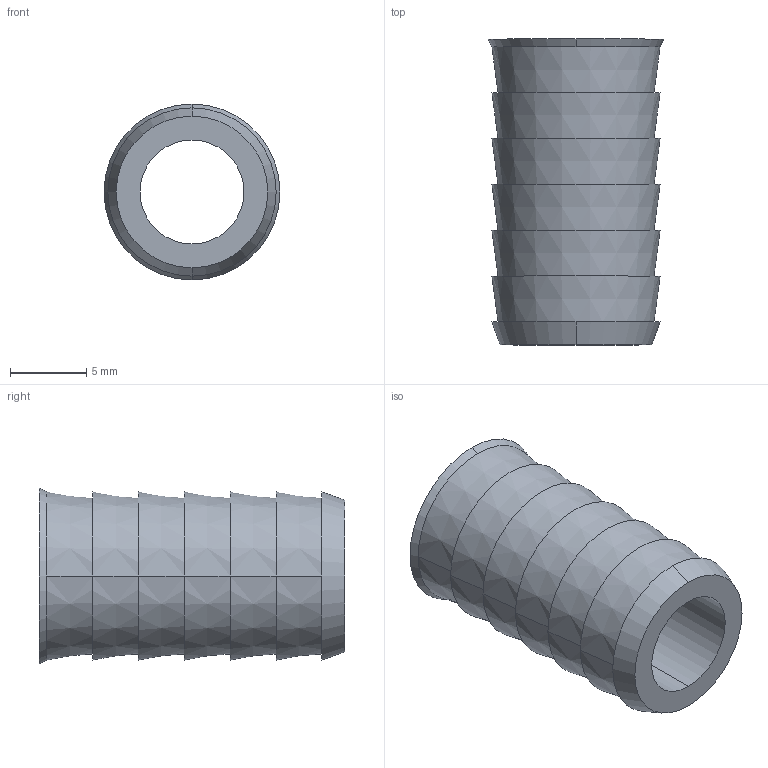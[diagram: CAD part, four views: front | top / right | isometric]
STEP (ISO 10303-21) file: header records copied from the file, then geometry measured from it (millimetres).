
FILE_DESCRIPTION (( 'STEP AP203' ), '1' );
FILE_NAME ('115.302.001.STEP', '2018-11-13T13:50:23', ( 'Localadmin' ), ( 'Microsoft' ), 'SwSTEP 2.0', 'SolidWorks 2018', '' );
FILE_SCHEMA (( 'CONFIG_CONTROL_DESIGN' ));
Length unit declared in the file: millimetre
Products named in the file (1): 115.302.001
Bounding box: 11.5 x 20 x 11.5 mm (x, y, z)
Volume: 1038.6 mm3; surface area: 1286.5 mm2
Topology: 1 solids, 1 shells, 28 faces, 58 edges, 38 vertices
Faces by surface type: cone 18, plane 8, cylinder 2
Entity records: 845 total; most frequent: DIRECTION 154, CARTESIAN_POINT 125, ORIENTED_EDGE 116, AXIS2_PLACEMENT_3D 67, EDGE_CURVE 58, CIRCLE 38, VERTEX_POINT 38, EDGE_LOOP 36
